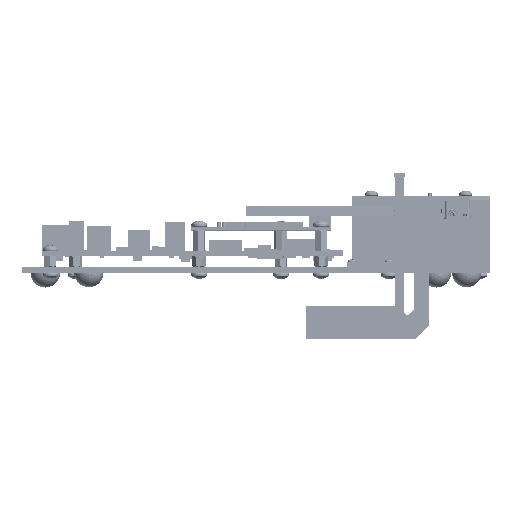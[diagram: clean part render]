
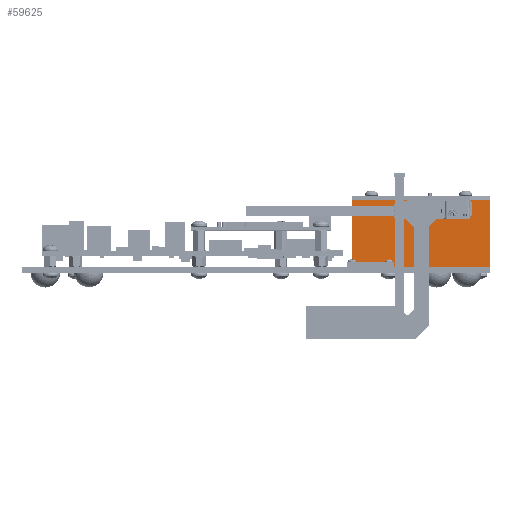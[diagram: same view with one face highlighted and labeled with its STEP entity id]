
A CAD part, top view. The second image highlights one B-rep face of the part: STEP entity #59625.
In plain terms, the highlighted planar face has unit normal (0, 0, 1).
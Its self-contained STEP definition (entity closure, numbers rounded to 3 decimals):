
#7647 = DIRECTION ( 'NONE',  ( 1., 0., 0. ) ) ;
#7931 = ORIENTED_EDGE ( 'NONE', *, *, #48244, .F. ) ;
#16604 = EDGE_LOOP ( 'NONE', ( #124887, #75711, #7931, #227466 ) ) ;
#17507 = CARTESIAN_POINT ( 'NONE',  ( 52.578, 25.4, 0. ) ) ;
#28560 = VECTOR ( 'NONE', #104711, 1000. ) ;
#30734 = EDGE_CURVE ( 'NONE', #95518, #256397, #282470, .T. ) ;
#41323 = EDGE_CURVE ( 'NONE', #206170, #108713, #324938, .T. ) ;
#47148 = VECTOR ( 'NONE', #351930, 1000. ) ;
#48244 = EDGE_CURVE ( 'NONE', #95518, #206170, #251917, .T. ) ;
#55760 = LINE ( 'NONE', #341481, #121049 ) ;
#56279 = AXIS2_PLACEMENT_3D ( 'NONE', #325827, #354001, #187042 ) ;
#59625 = ADVANCED_FACE ( 'NONE', ( #339111 ), #158992, .F. ) ;
#67637 = CARTESIAN_POINT ( 'NONE',  ( 0., 25.4, 0. ) ) ;
#71596 = DIRECTION ( 'NONE',  ( 0., -1., 0. ) ) ;
#75711 = ORIENTED_EDGE ( 'NONE', *, *, #41323, .F. ) ;
#95518 = VERTEX_POINT ( 'NONE', #67637 ) ;
#104711 = DIRECTION ( 'NONE',  ( 0., -1., 0. ) ) ;
#108713 = VERTEX_POINT ( 'NONE', #234780 ) ;
#121049 = VECTOR ( 'NONE', #7647, 1000. ) ;
#124887 = ORIENTED_EDGE ( 'NONE', *, *, #279173, .T. ) ;
#127601 = CARTESIAN_POINT ( 'NONE',  ( 0., 25.4, 0. ) ) ;
#158992 = PLANE ( 'NONE',  #56279 ) ;
#185007 = CARTESIAN_POINT ( 'NONE',  ( 0., 25.4, 0. ) ) ;
#187042 = DIRECTION ( 'NONE',  ( -1., 0., 0. ) ) ;
#206170 = VERTEX_POINT ( 'NONE', #17507 ) ;
#227466 = ORIENTED_EDGE ( 'NONE', *, *, #30734, .T. ) ;
#234780 = CARTESIAN_POINT ( 'NONE',  ( 52.578, 0., 0. ) ) ;
#251917 = LINE ( 'NONE', #185007, #47148 ) ;
#256397 = VERTEX_POINT ( 'NONE', #312677 ) ;
#273703 = VECTOR ( 'NONE', #71596, 1000. ) ;
#279173 = EDGE_CURVE ( 'NONE', #256397, #108713, #55760, .T. ) ;
#282470 = LINE ( 'NONE', #127601, #273703 ) ;
#312677 = CARTESIAN_POINT ( 'NONE',  ( 0., 0., 0. ) ) ;
#324938 = LINE ( 'NONE', #354578, #28560 ) ;
#325827 = CARTESIAN_POINT ( 'NONE',  ( 0., 25.4, 0. ) ) ;
#339111 = FACE_OUTER_BOUND ( 'NONE', #16604, .T. ) ;
#341481 = CARTESIAN_POINT ( 'NONE',  ( 0., 0., 0. ) ) ;
#351930 = DIRECTION ( 'NONE',  ( 1., 0., 0. ) ) ;
#354001 = DIRECTION ( 'NONE',  ( 0., 0., -1. ) ) ;
#354578 = CARTESIAN_POINT ( 'NONE',  ( 52.578, 25.4, 0. ) ) ;
